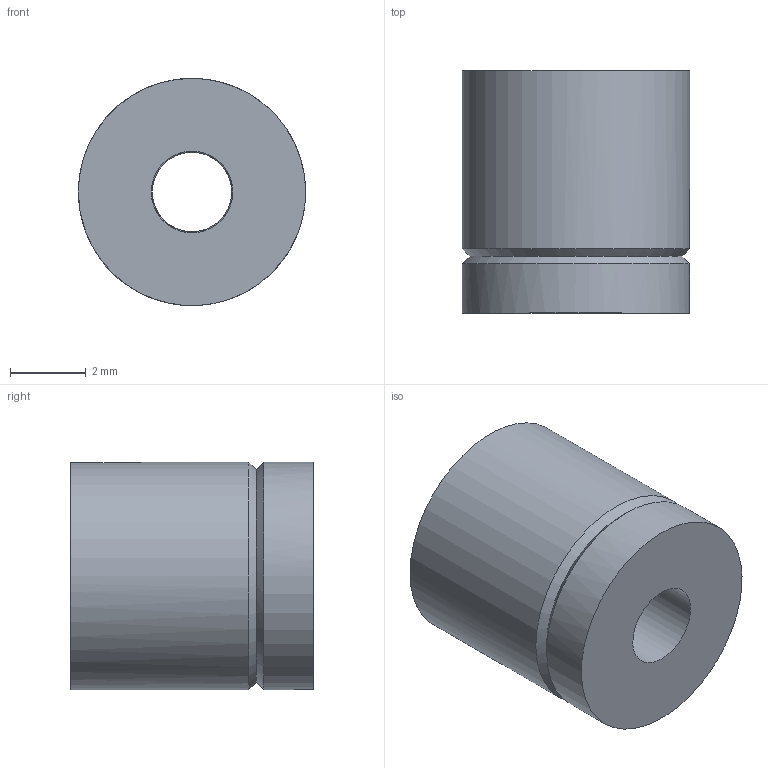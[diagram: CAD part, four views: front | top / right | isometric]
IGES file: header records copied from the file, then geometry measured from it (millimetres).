
Global section: file name: C30-RO-6-6.4UU; native system: Autodesk Inventor 2020; preprocessor: unknown; author: e.nonaka; date: 20200331.111008; units: millimetre
Bounding box: 6 x 6.4 x 6 mm (x, y, z)
Volume: 157.4 mm3; surface area: 215.9 mm2
Topology: 1 solids, 1 shells, 11 faces, 29 edges, 20 vertices
Faces by surface type: bspline 11
